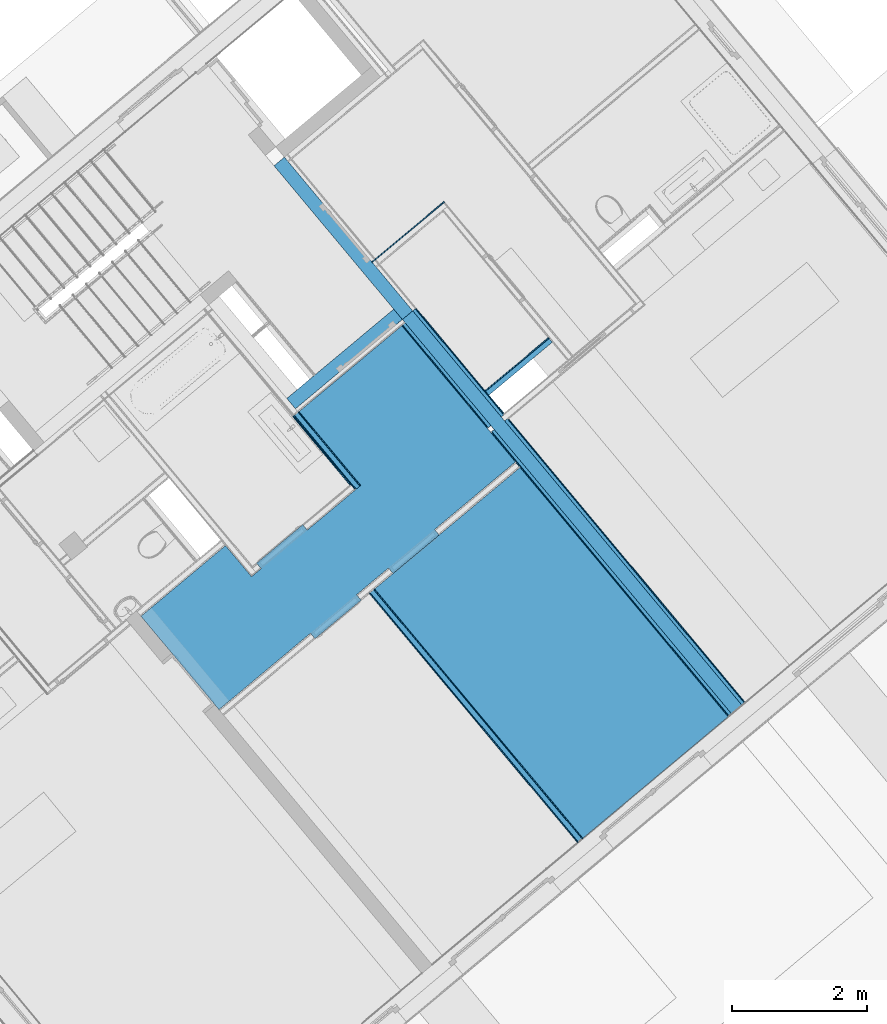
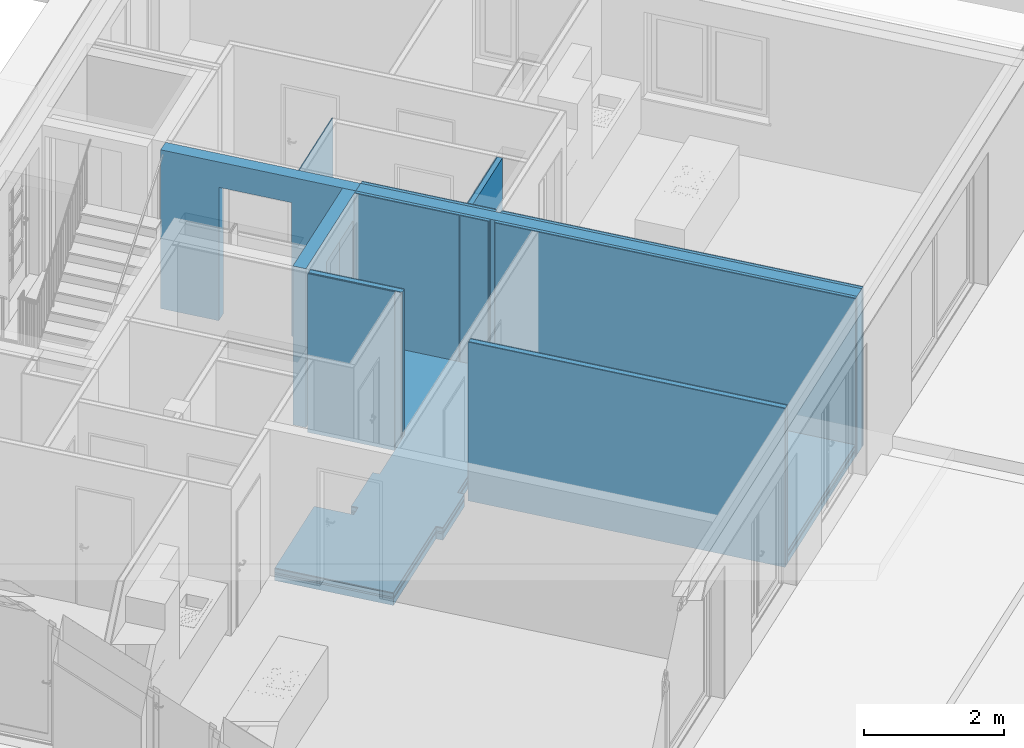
# One storey, part 40 of 67: 25 building element parts, 2 openings, 9 elements without a shape of their own.
"""IFC4 building model written with IfcOpenShell, lengths in metres."""

from ifc_helpers import new_model, entity, si_unit, converted_unit, derived_unit, direction, frame, origin_with_axes, place, context, subcontext, project, spatial, polygons, material, type_object, element, aggregate, save


model = new_model("IFC4")

# Units and contexts
model_context = context("Model", 3, precision=1e-05, world=origin_with_axes(), true_north=direction((0.0, 1.0)))
body_context = subcontext(model_context, "Body", "Model", "MODEL_VIEW")
ifc_project = project(units=[si_unit("LENGTHUNIT", "METRE"), si_unit("AREAUNIT", "SQUARE_METRE"), si_unit("VOLUMEUNIT", "CUBIC_METRE"), converted_unit("PLANEANGLEUNIT", "DEGREE", entity("IfcPlaneAngleMeasure", 0.0174532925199), si_unit("PLANEANGLEUNIT", "RADIAN"), dimensions=[0, 0, 0, 0, 0, 0, 0]), converted_unit("TIMEUNIT", "Year", entity("IfcTimeMeasure", 31556926.0), si_unit("TIMEUNIT", "SECOND"), dimensions=[0, 0, 1, 0, 0, 0, 0]), si_unit("MASSUNIT", "GRAM", prefix="KILO"), si_unit("THERMODYNAMICTEMPERATUREUNIT", "DEGREE_CELSIUS"), si_unit("LUMINOUSINTENSITYUNIT", "LUMEN"), si_unit("ENERGYUNIT", "JOULE", prefix="MEGA"), derived_unit("THERMALCONDUCTANCEUNIT", [(si_unit("POWERUNIT", "WATT"), 1), (si_unit("LENGTHUNIT", "METRE"), -1), (si_unit("THERMODYNAMICTEMPERATUREUNIT", "KELVIN"), -1)]), derived_unit("SPECIFICHEATCAPACITYUNIT", [(si_unit("ENERGYUNIT", "JOULE"), 1), (si_unit("MASSUNIT", "GRAM", prefix="KILO"), -1), (si_unit("THERMODYNAMICTEMPERATUREUNIT", "KELVIN"), -1)]), derived_unit("MASSDENSITYUNIT", [(si_unit("MASSUNIT", "GRAM", prefix="KILO"), 1), (si_unit("VOLUMEUNIT", "CUBIC_METRE"), -1)])], contexts=[model_context])

# Site, building, storey
site_placement = place(None, frame((-0.00153261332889, -0.00661245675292, 0.0), z_axis=(0.0, 0.0, 1.0), x_axis=(1.0, 0.0, 0.0)))
site = spatial("IfcSite", under=ifc_project, at=site_placement, Name="Site", CompositionType="ELEMENT")
building_placement = place(site_placement, origin_with_axes())
building = spatial("IfcBuilding", under=site, at=building_placement, Name="Building", CompositionType="ELEMENT")
storey_placement = place(building_placement, frame((0.0, 0.0, -0.22), z_axis=(0.0, 0.0, 1.0), x_axis=(1.0, 0.0, 0.0)))
storey = spatial("IfcBuildingStorey", under=building, at=storey_placement, Name="EG", CompositionType="ELEMENT", Elevation=-0.22)

# Wall, building element parts
wall_type_1 = type_object("IfcWallType", Name="IW LB 01 Leichtbautrennwand einfach 10,5 cm 105", PredefinedType="NOTDEFINED")
wall_1_placement = place(storey_placement, frame((2.82455205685, 18.2460213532, 0.0), z_axis=(0.0, 0.0, 1.0), x_axis=(0.641209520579, -0.767365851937, 0.0)))
wall_1 = element("IfcWall", 1, at=wall_1_placement, inside=storey, type_object=wall_type_1, Name="Wand-012", PredefinedType="NOTDEFINED")
ifc_material_1 = material(Name="Gipskarton")
building_element_part_1_placement = place(wall_1_placement, origin_with_axes())
building_element_part_1 = element("IfcBuildingElementPart", 2, at=building_element_part_1_placement, material=ifc_material_1, Name="Gipskarton", PredefinedType="NOTDEFINED", context=body_context, shape_type="Tessellation", body=[
    polygons([(0.0, 0.0, 2.76), (4.80588291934, 0.0, 2.76), (4.80588291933, 0.0, 0.0), (0.0, 0.0, 0.0), (4.80589268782, -0.015, 2.76), (0.0, -0.015, 2.76), (4.8058926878, -0.015, 0.0), (0.0, -0.015, 0.0)], [[[1, 2, 3, 4]], [[5, 2, 1, 6]], [[2, 5, 7, 3]], [[4, 3, 7, 8]], [[6, 1, 4, 8]], [[5, 6, 8, 7]]], closed=True),
])
ifc_material_2 = material(Name="Mineralwolle weich")
building_element_part_2_placement = place(wall_1_placement, origin_with_axes())
building_element_part_2 = element("IfcBuildingElementPart", 3, at=building_element_part_2_placement, material=ifc_material_2, Name="Mineralwolle weich", PredefinedType="NOTDEFINED", context=body_context, shape_type="Tessellation", body=[
    polygons([(0.0, -0.015, 2.76), (4.80589268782, -0.015, 2.76), (4.8058926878, -0.015, 0.0), (0.0, -0.015, 0.0), (4.80594153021, -0.09, 2.76), (0.0, -0.09, 2.76), (4.80594153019, -0.09, 0.0), (0.0, -0.09, 0.0)], [[[1, 2, 3, 4]], [[5, 2, 1, 6]], [[2, 5, 7, 3]], [[4, 3, 7, 8]], [[6, 1, 4, 8]], [[5, 6, 8, 7]]], closed=True),
])
building_element_part_3_placement = place(wall_1_placement, origin_with_axes())
building_element_part_3 = element("IfcBuildingElementPart", 4, at=building_element_part_3_placement, material=ifc_material_1, Name="Gipskarton", PredefinedType="NOTDEFINED", context=body_context, shape_type="Tessellation", body=[
    polygons([(0.0, -0.09, 2.76), (4.80594153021, -0.09, 2.76), (4.80594153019, -0.09, 0.0), (0.0, -0.09, 0.0), (4.80595129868, -0.105, 2.76), (0.0, -0.105, 2.76), (4.80595129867, -0.105, 0.0), (0.0, -0.105, 0.0)], [[[1, 2, 3, 4]], [[5, 2, 1, 6]], [[2, 5, 7, 3]], [[4, 3, 7, 8]], [[6, 1, 4, 8]], [[5, 6, 8, 7]]], closed=True),
])
aggregate(wall_1, [building_element_part_1, building_element_part_2, building_element_part_3])

# Wall, opening, building element part
wall_type_2 = type_object("IfcWallType", Name="LB 6,5 cm einfach Vorsatzschale + STB 265", PredefinedType="NOTDEFINED")
wall_2_placement = place(storey_placement, frame((3.10708203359, 22.3836955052, 0.0), z_axis=(0.0, 0.0, 1.0), x_axis=(-0.767670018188, -0.640845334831, 0.0)))
wall_2 = element("IfcWall", 5, at=wall_2_placement, inside=storey, type_object=wall_type_2, Name="Wand-003", PredefinedType="NOTDEFINED")
opening_1_placement = place(wall_2_placement, frame((0.668737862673, 0.0, 0.22), z_axis=(0.0, 0.0, 1.0), x_axis=(1.0, 0.0, 0.0)))
element("IfcOpeningElement", 6, at=opening_1_placement, cuts=wall_2, Name="Tür-001", context=body_context, identifier="Reference", shape_type="Tessellation", body=[
    polygons([(0.55, 0.125, 2.1), (-0.55, 0.125, 2.1), (-0.55, -0.91628178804, 2.1), (0.55, -0.91628178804, 2.1), (0.55, 1.18128178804, 2.1), (-0.55, 1.18128178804, 2.1), (-0.55, 0.125, -0.22), (-0.55, -0.91628178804, -0.22), (0.55, -0.91628178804, -0.22), (0.55, 0.125, -0.22), (0.55, 1.18128178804, -0.22), (-0.55, 1.18128178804, -0.22)], [[[1, 2, 3, 4]], [[2, 1, 5, 6]], [[2, 7, 8, 3]], [[3, 8, 9, 4]], [[10, 1, 4, 9]], [[1, 10, 11, 5]], [[5, 11, 12, 6]], [[7, 2, 6, 12]], [[7, 10, 9, 8]], [[10, 7, 12, 11]]], closed=True),
])
ifc_material_3 = material(Name="Stahlbeton Wand")
building_element_part_4_placement = place(wall_2_placement, origin_with_axes())
building_element_part_4 = element("IfcBuildingElementPart", 7, at=building_element_part_4_placement, material=ifc_material_3, Name="Stahlbeton Wand", PredefinedType="NOTDEFINED", context=body_context, shape_type="Tessellation", body=[
    polygons([(1.21873786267, 0.199999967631, 0.22), (1.21873786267, 0.199999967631, 2.32), (0.118737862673, 0.199999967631, 2.32), (0.118737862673, 0.199999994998, 0.22), (0.118737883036, 0.199999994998, 0.0), (2.57769698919e-08, 0.2, 0.0), (2.57769663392e-08, 0.2, 2.76), (2.06048860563, 0.2, 2.76), (2.06048860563, 0.2, 0.0), (1.21873786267, 0.199999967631, 0.0), (1.21873786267, 0.125, 0.22), (1.21873786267, 0.125, 2.32), (0.118737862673, 0.125, 2.32), (0.118737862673, 0.125, 0.22), (0.118737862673, 0.0, 0.22), (0.11873788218, 0.0, 0.0), (2.57744581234e-08, 0.0, 0.0), (2.57744581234e-08, 0.0, 2.76), (2.06048860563, 0.0, 2.76), (2.06048860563, 0.0, 0.0), (1.21873786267, 0.0, 0.0), (1.21873786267, 0.0, 0.22), (1.21873786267, 0.0, 2.32), (0.118737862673, 0.0, 2.32)], [[[1, 2, 3, 4, 5, 6, 7, 8, 9, 10]], [[2, 1, 11, 12]], [[3, 2, 12, 13]], [[4, 3, 13, 14]], [[4, 14, 15, 16, 5]], [[17, 6, 5, 16]], [[17, 18, 7, 6]], [[7, 18, 19, 8]], [[8, 19, 20, 9]], [[9, 20, 21, 10]], [[11, 1, 10, 21, 22]], [[12, 11, 22, 23]], [[13, 12, 23, 24]], [[14, 13, 24, 15]], [[16, 15, 24, 23, 22, 21, 20, 19, 18, 17]]], closed=True),
])
aggregate(wall_2, [building_element_part_4])

wall_3_placement = place(storey_placement, frame((3.23525108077, 22.230161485, 0.0), z_axis=(0.0, 0.0, 1.0), x_axis=(-0.640845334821, 0.767670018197, 0.0)))
wall_3 = element("IfcWall", 8, at=wall_3_placement, inside=storey, type_object=wall_type_2, Name="Wand-003", PredefinedType="NOTDEFINED")
opening_2_placement = place(wall_3_placement, frame((1.52746867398, 0.0, 0.22), z_axis=(0.0, 0.0, 1.0), x_axis=(1.0, 0.0, 0.0)))
element("IfcOpeningElement", 9, at=opening_2_placement, cuts=wall_3, Name="Tür-001", context=body_context, identifier="Reference", shape_type="Tessellation", body=[
    polygons([(-0.55, -0.125, -0.22), (-0.55, -0.125, 2.1), (-0.55, 1.55629700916, 2.1), (-0.55, 1.55629700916, -0.22), (-0.55, -1.82129700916, -0.22), (-0.55, -1.82129700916, 2.1), (0.55, -0.125, 2.1), (0.55, 1.55629700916, 2.1), (0.55, 1.55629700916, -0.22), (0.55, -0.125, -0.22), (0.55, -1.82129700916, -0.22), (0.55, -1.82129700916, 2.1)], [[[1, 2, 3, 4]], [[2, 1, 5, 6]], [[2, 7, 8, 3]], [[8, 9, 4, 3]], [[10, 1, 4, 9]], [[1, 10, 11, 5]], [[6, 5, 11, 12]], [[7, 2, 6, 12]], [[7, 10, 9, 8]], [[10, 7, 12, 11]]], closed=True),
])
building_element_part_5_placement = place(wall_3_placement, origin_with_axes())
building_element_part_5 = element("IfcBuildingElementPart", 10, at=building_element_part_5_placement, material=ifc_material_3, Name="Stahlbeton Wand", PredefinedType="NOTDEFINED", context=body_context, shape_type="Tessellation", body=[
    polygons([(2.07746867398, -0.2, 2.32), (2.07746867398, -0.199999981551, 0.22), (2.07746867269, -0.199999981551, 0.0), (2.96152889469, -0.2, 0.0), (2.96152889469, -0.2, 2.76), (0.0, -0.2, 2.76), (0.0, -0.2, 0.0), (0.977468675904, -0.19999995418, 0.0), (0.977468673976, -0.19999995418, 0.22), (0.977468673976, -0.2, 2.32), (2.07746867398, -0.125, 2.32), (2.07746867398, -0.125, 0.22), (2.07746867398, 0.0, 0.22), (2.07746867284, 0.0, 0.0), (2.96144425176, 0.0, 0.0), (2.96144425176, 0.0, 2.76), (0.0, 0.0, 2.76), (0.0, 0.0, 0.0), (0.977468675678, 0.0, 0.0), (0.977468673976, -0.125, 0.22), (0.977468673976, 0.0, 0.22), (0.977468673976, -0.125, 2.32), (2.07746867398, 0.0, 2.32), (0.977468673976, 0.0, 2.32)], [[[1, 2, 3, 4, 5, 6, 7, 8, 9, 10]], [[2, 1, 11, 12]], [[2, 12, 13, 14, 3]], [[15, 4, 3, 14]], [[4, 15, 16, 5]], [[17, 6, 5, 16]], [[17, 18, 7, 6]], [[7, 18, 19, 8]], [[20, 9, 8, 19, 21]], [[10, 9, 20, 22]], [[1, 10, 22, 11]], [[12, 11, 23, 13]], [[14, 13, 23, 24, 21, 19, 18, 17, 16, 15]], [[22, 20, 21, 24]], [[11, 22, 24, 23]]], closed=True),
])
aggregate(wall_3, [building_element_part_5])

# Wall, building element parts
wall_type_3 = type_object("IfcWallType", Name="LB 6,5 cm einfach Vorsatzschale + STB + Schale 330", PredefinedType="NOTDEFINED")
wall_4_placement = place(storey_placement, frame((8.31086475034, 16.5635891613, 0.0), z_axis=(0.0, 0.0, 1.0), x_axis=(-0.640845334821, 0.767670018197, 0.0)))
wall_4 = element("IfcWall", 11, at=wall_4_placement, inside=storey, type_object=wall_type_3, Name="Wand-003", PredefinedType="NOTDEFINED")
building_element_part_6_placement = place(wall_4_placement, origin_with_axes())
building_element_part_6 = element("IfcBuildingElementPart", 12, at=building_element_part_6_placement, material=ifc_material_1, Name="Gipskarton", PredefinedType="NOTDEFINED", context=body_context, shape_type="Tessellation", body=[
    polygons([(7.60274102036, 0.33, 0.0), (7.60274102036, 0.315, 0.0), (6.01339393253, 0.315, 0.0), (6.01338681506, 0.33, 0.0), (7.60274102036, 0.33, 2.76), (7.60274102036, 0.315, 2.76), (6.01339393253, 0.315, 2.76), (6.01338681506, 0.33, 2.76)], [[[1, 2, 3, 4]], [[1, 5, 6, 2]], [[2, 6, 7, 3]], [[4, 3, 7, 8]], [[5, 1, 4, 8]], [[6, 5, 8, 7]]], closed=True),
    polygons([(5.99839393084, 0.315, 0.0), (5.5737861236, 0.315, 0.0), (5.5737884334, 0.33, 0.0), (5.99838681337, 0.33, 0.0), (5.99839393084, 0.315, 2.76), (5.5737861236, 0.315, 2.76), (5.5737884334, 0.33, 2.76), (5.99838681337, 0.33, 2.76)], [[[1, 2, 3, 4]], [[5, 6, 2, 1]], [[3, 2, 6, 7]], [[4, 3, 7, 8]], [[4, 8, 5, 1]], [[8, 7, 6, 5]]], closed=True),
    polygons([(5.46878612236, 0.315, 0.0), (0.0, 0.315, 0.0), (0.0, 0.33, 0.0), (5.46878843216, 0.33, 0.0), (5.46878612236, 0.315, 2.76), (0.0, 0.315, 2.76), (0.0, 0.33, 2.76), (5.46878843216, 0.33, 2.76)], [[[1, 2, 3, 4]], [[5, 6, 2, 1]], [[3, 2, 6, 7]], [[4, 3, 7, 8]], [[4, 8, 5, 1]], [[8, 7, 6, 5]]], closed=True),
])
building_element_part_7_placement = place(wall_4_placement, origin_with_axes())
building_element_part_7 = element("IfcBuildingElementPart", 13, at=building_element_part_7_placement, material=ifc_material_2, Name="Mineralwolle weich", PredefinedType="NOTDEFINED", context=body_context, shape_type="Tessellation", body=[
    polygons([(7.60274102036, 0.315, 0.0), (7.60274102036, 0.265, 0.0), (5.55877842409, 0.265, 0.0), (5.55878612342, 0.315, 0.0), (7.60274102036, 0.315, 2.76), (7.60274102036, 0.265, 2.76), (5.55877842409, 0.265, 2.76), (5.55878612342, 0.315, 2.76)], [[[1, 2, 3, 4]], [[1, 5, 6, 2]], [[2, 6, 7, 3]], [[4, 3, 7, 8]], [[5, 1, 4, 8]], [[6, 5, 8, 7]]], closed=True),
    polygons([(5.4837784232, 0.265, 0.0), (0.0, 0.265, 0.0), (0.0, 0.315, 0.0), (5.48378612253, 0.315, 0.0), (5.4837784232, 0.265, 2.76), (0.0, 0.265, 2.76), (0.0, 0.315, 2.76), (5.48378612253, 0.315, 2.76)], [[[1, 2, 3, 4]], [[5, 6, 2, 1]], [[3, 2, 6, 7]], [[4, 3, 7, 8]], [[4, 8, 5, 1]], [[8, 7, 6, 5]]], closed=True),
])
building_element_part_8_placement = place(wall_4_placement, origin_with_axes())
building_element_part_8 = element("IfcBuildingElementPart", 14, at=building_element_part_8_placement, material=ifc_material_3, Name="Stahlbeton Wand", PredefinedType="NOTDEFINED", context=body_context, shape_type="Tessellation", body=[
    polygons([(7.60274102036, 0.265, 0.0), (7.60274102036, 0.065, 0.0), (0.0, 0.065, 0.0), (0.0, 0.265, 0.0), (7.60274102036, 0.265, 2.76), (7.60274102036, 0.065, 2.76), (0.0, 0.065, 2.76), (0.0, 0.265, 2.76)], [[[1, 2, 3, 4]], [[1, 5, 6, 2]], [[2, 6, 7, 3]], [[4, 3, 7, 8]], [[5, 1, 4, 8]], [[6, 5, 8, 7]]], closed=True),
])
building_element_part_9_placement = place(wall_4_placement, origin_with_axes())
building_element_part_9 = element("IfcBuildingElementPart", 15, at=building_element_part_9_placement, material=ifc_material_2, Name="Mineralwolle weich", PredefinedType="NOTDEFINED", context=body_context, shape_type="Tessellation", body=[
    polygons([(7.60274102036, 0.065, 0.0), (7.60274102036, 0.015, 0.0), (5.55873992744, 0.015, 0.0), (5.55874762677, 0.065, 0.0), (7.60274102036, 0.065, 2.76), (7.60274102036, 0.015, 2.76), (5.55873992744, 0.015, 2.76), (5.55874762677, 0.065, 2.76)], [[[1, 2, 3, 4]], [[1, 5, 6, 2]], [[2, 6, 7, 3]], [[4, 3, 7, 8]], [[5, 1, 4, 8]], [[6, 5, 8, 7]]], closed=True),
    polygons([(5.48373992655, 0.015, 0.0), (0.0, 0.015, 0.0), (0.0, 0.065, 0.0), (5.48374762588, 0.065, 0.0), (5.48373992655, 0.015, 2.76), (0.0, 0.015, 2.76), (0.0, 0.065, 2.76), (5.48374762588, 0.065, 2.76)], [[[1, 2, 3, 4]], [[5, 6, 2, 1]], [[3, 2, 6, 7]], [[4, 3, 7, 8]], [[4, 8, 5, 1]], [[8, 7, 6, 5]]], closed=True),
])
building_element_part_10_placement = place(wall_4_placement, origin_with_axes())
building_element_part_10 = element("IfcBuildingElementPart", 16, at=building_element_part_10_placement, material=ifc_material_1, Name="Gipskarton", PredefinedType="NOTDEFINED", context=body_context, shape_type="Tessellation", body=[
    polygons([(7.60274102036, 0.015, 0.0), (7.60274102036, 0.0, 0.0), (6.01354339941, 0.0, 0.0), (6.01353628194, 0.015, 0.0), (7.60274102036, 0.015, 2.76), (7.60274102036, 0.0, 2.76), (6.01354339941, 0.0, 2.76), (6.01353628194, 0.015, 2.76)], [[[1, 2, 3, 4]], [[1, 5, 6, 2]], [[2, 6, 7, 3]], [[4, 3, 7, 8]], [[5, 1, 4, 8]], [[6, 5, 8, 7]]], closed=True),
    polygons([(5.99854339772, 0.0, 0.0), (5.57373761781, 0.0, 0.0), (5.57373992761, 0.015, 0.0), (5.99853628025, 0.015, 0.0), (5.99854339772, 0.0, 2.76), (5.57373761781, 0.0, 2.76), (5.57373992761, 0.015, 2.76), (5.99853628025, 0.015, 2.76)], [[[1, 2, 3, 4]], [[5, 6, 2, 1]], [[3, 2, 6, 7]], [[4, 3, 7, 8]], [[4, 8, 5, 1]], [[8, 7, 6, 5]]], closed=True),
    polygons([(5.46873761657, 0.0, 0.0), (0.0, 0.0, 0.0), (0.0, 0.015, 0.0), (5.46873992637, 0.015, 0.0), (5.46873761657, 0.0, 2.76), (0.0, 0.0, 2.76), (0.0, 0.015, 2.76), (5.46873992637, 0.015, 2.76)], [[[1, 2, 3, 4]], [[5, 6, 2, 1]], [[3, 2, 6, 7]], [[4, 3, 7, 8]], [[4, 8, 5, 1]], [[8, 7, 6, 5]]], closed=True),
])
aggregate(wall_4, [building_element_part_6, building_element_part_7, building_element_part_8, building_element_part_9, building_element_part_10])

wall_type_4 = type_object("IfcWallType", Name="LB 13 cm doppelte Vorsatzschale Bad  120", PredefinedType="NOTDEFINED")
wall_5_placement = place(storey_placement, frame((1.61452537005, 20.7925196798, 0.0), z_axis=(0.0, 0.0, 1.0), x_axis=(0.641726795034, -0.766933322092, 0.0)))
wall_5 = element("IfcWall", 17, at=wall_5_placement, inside=storey, type_object=wall_type_4, Name="Wand-013", PredefinedType="NOTDEFINED")
ifc_material_4 = material(Name="Gipsputz")
building_element_part_11_placement = place(wall_5_placement, origin_with_axes())
building_element_part_11 = element("IfcBuildingElementPart", 18, at=building_element_part_11_placement, material=ifc_material_4, Name="Gipsputz", PredefinedType="NOTDEFINED", context=body_context, shape_type="Tessellation", body=[
    polygons([(0.0, 0.12, 2.76), (1.42358662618, 0.12, 2.76), (1.42358662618, 0.12, 0.0), (0.0, 0.12, 0.0), (1.42357651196, 0.105, 2.76), (0.0, 0.105, 2.76), (1.42357651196, 0.105, 0.0), (0.0, 0.105, 0.0)], [[[1, 2, 3, 4]], [[5, 2, 1, 6]], [[2, 5, 7, 3]], [[3, 7, 8, 4]], [[6, 1, 4, 8]], [[5, 6, 8, 7]]], closed=True),
])
building_element_part_12_placement = place(wall_5_placement, origin_with_axes())
building_element_part_12 = element("IfcBuildingElementPart", 19, at=building_element_part_12_placement, material=ifc_material_2, Name="Mineralwolle weich", PredefinedType="NOTDEFINED", context=body_context, shape_type="Tessellation", body=[
    polygons([(0.0, 0.105, 2.76), (1.42357651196, 0.105, 2.76), (1.42357651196, 0.105, 0.0), (0.0, 0.105, 0.0), (1.42352594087, 0.03, 2.76), (0.0, 0.03, 2.76), (1.42352594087, 0.03, 0.0), (0.0, 0.03, 0.0)], [[[1, 2, 3, 4]], [[5, 2, 1, 6]], [[2, 5, 7, 3]], [[3, 7, 8, 4]], [[6, 1, 4, 8]], [[5, 6, 8, 7]]], closed=True),
])
building_element_part_13_placement = place(wall_5_placement, origin_with_axes())
building_element_part_13 = element("IfcBuildingElementPart", 20, at=building_element_part_13_placement, material=ifc_material_1, Name="Gipskarton", PredefinedType="NOTDEFINED", context=body_context, shape_type="Tessellation", body=[
    polygons([(0.0, 0.03, 2.76), (1.40852593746, 0.03, 2.76), (1.40852593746, 0.03, 0.0), (0.0, 0.03, 0.0), (1.40851582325, 0.015, 2.76), (0.0, 0.015, 2.76), (1.40851582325, 0.015, 0.0), (0.0, 0.015, 0.0)], [[[1, 2, 3, 4]], [[5, 2, 1, 6]], [[2, 5, 7, 3]], [[3, 7, 8, 4]], [[6, 1, 4, 8]], [[5, 6, 8, 7]]], closed=True),
])
building_element_part_14_placement = place(wall_5_placement, origin_with_axes())
building_element_part_14 = element("IfcBuildingElementPart", 21, at=building_element_part_14_placement, material=ifc_material_1, Name="Gipskarton", PredefinedType="NOTDEFINED", context=body_context, shape_type="Tessellation", body=[
    polygons([(0.0, 0.015, 2.76), (1.31851580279, 0.015, 2.76), (1.31851580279, 0.015, 0.0), (0.0, 0.015, 0.0), (1.31850568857, 0.0, 2.76), (0.0, 0.0, 2.76), (1.31850568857, 0.0, 0.0), (0.0, 0.0, 0.0)], [[[1, 2, 3, 4]], [[5, 2, 1, 6]], [[2, 5, 7, 3]], [[3, 7, 8, 4]], [[6, 1, 4, 8]], [[5, 6, 8, 7]]], closed=True),
])
aggregate(wall_5, [building_element_part_11, building_element_part_12, building_element_part_13, building_element_part_14])

# Wall, building element part
wall_6_placement = place(storey_placement, frame((2.84969161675, 23.0041117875, 0.0), z_axis=(0.0, 0.0, 1.0), x_axis=(0.767365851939, 0.641209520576, 0.0)))
wall_6 = element("IfcWall", 22, at=wall_6_placement, inside=storey, type_object=wall_type_1, Name="Wand-012", PredefinedType="NOTDEFINED")
building_element_part_15_placement = place(wall_6_placement, origin_with_axes())
building_element_part_15 = element("IfcBuildingElementPart", 23, at=building_element_part_15_placement, material=ifc_material_1, Name="Gipskarton", PredefinedType="NOTDEFINED", context=body_context, shape_type="Tessellation", body=[
    polygons([(1.3909877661, 0.105, 2.76), (1.3909877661, 0.09, 2.76), (1.3909877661, 0.09, 0.0), (1.3909877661, 0.105, 0.0), (0.0, 0.09, 2.76), (0.0, 0.105, 2.76), (0.0, 0.09, 0.0), (0.0, 0.105, 0.0)], [[[1, 2, 3, 4]], [[5, 2, 1, 6]], [[2, 5, 7, 3]], [[4, 3, 7, 8]], [[6, 1, 4, 8]], [[5, 6, 8, 7]]], closed=True),
])
aggregate(wall_6, [building_element_part_15])

# Wall, building element parts
wall_type_5 = type_object("IfcWallType", Name="LB 9,0 cm einfache Vorsatzschale  90", PredefinedType="NOTDEFINED")
wall_7_placement = place(storey_placement, frame((4.46491081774, 21.0692371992, 0.0), z_axis=(0.0, 0.0, 1.0), x_axis=(0.767365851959, 0.641209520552, 0.0)))
wall_7 = element("IfcWall", 24, at=wall_7_placement, inside=storey, type_object=wall_type_5, Name="Wand-006", PredefinedType="NOTDEFINED")
building_element_part_16_placement = place(wall_7_placement, origin_with_axes())
building_element_part_16 = element("IfcBuildingElementPart", 25, at=building_element_part_16_placement, material=ifc_material_1, Name="Gipskarton", PredefinedType="NOTDEFINED", context=body_context, shape_type="Tessellation", body=[
    polygons([(1.28718371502, 0.09, 2.76), (1.28718371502, 0.075, 2.76), (1.28718371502, 0.075, 0.0), (1.28718371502, 0.09, 0.0), (0.0500427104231, 0.09, 2.76), (0.0500355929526, 0.075, 2.76), (0.0500355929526, 0.075, 0.0), (0.0500427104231, 0.09, 0.0)], [[[1, 2, 3, 4]], [[2, 1, 5, 6]], [[2, 6, 7, 3]], [[3, 7, 8, 4]], [[1, 4, 8, 5]], [[6, 5, 8, 7]]], closed=True),
])
building_element_part_17_placement = place(wall_7_placement, origin_with_axes())
building_element_part_17 = element("IfcBuildingElementPart", 26, at=building_element_part_17_placement, material=ifc_material_2, Name="Mineralwolle weich", PredefinedType="NOTDEFINED", context=body_context, shape_type="Tessellation", body=[
    polygons([(1.28718371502, 0.075, 2.76), (1.28718371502, 0.0, 2.76), (1.28718371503, 0.0, 0.0), (1.28718371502, 0.075, 0.0), (0.0650000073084, 0.0, 2.76), (0.065035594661, 0.075, 2.76), (0.0650000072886, 0.0, 0.0), (0.0650355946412, 0.075, 0.0)], [[[1, 2, 3, 4]], [[5, 2, 1, 6]], [[2, 5, 7, 3]], [[3, 7, 8, 4]], [[6, 1, 4, 8]], [[5, 6, 8, 7]]], closed=True),
])
aggregate(wall_7, [building_element_part_16, building_element_part_17])

# Covering, building element parts
covering_type_1 = type_object("IfcCoveringType", Name="DE 01 Decke Wohnung/Wohnung Parkett 220", PredefinedType="NOTDEFINED")
covering_1_placement = place(storey_placement, frame((2.82455205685, 18.2460213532, 0.22), z_axis=(0.0, 0.0, 1.0), x_axis=(1.0, 0.0, 0.0)))
covering_1 = element("IfcCovering", 27, at=covering_1_placement, inside=storey, type_object=covering_type_1, Name="Decke-006", PredefinedType="NOTDEFINED")
ifc_material_5 = material(Name="Parkett")
building_element_part_18_placement = place(covering_1_placement, origin_with_axes())
building_element_part_18 = element("IfcBuildingElementPart", 28, at=building_element_part_18_placement, material=ifc_material_5, Name="Parkett", PredefinedType="NOTDEFINED", context=body_context, shape_type="Tessellation", body=[
    polygons([(3.08157788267, -3.68787044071, -0.015), (3.08157788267, -3.68787044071, 0.0), (0.0, 0.0, 0.0), (0.0, 0.0, -0.015), (5.22996853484, -1.89030181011, -0.015), (5.22996853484, -1.89030181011, 0.0), (2.15130959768, 1.79763041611, 0.0), (2.15130959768, 1.79763041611, -0.015)], [[[1, 2, 3, 4]], [[5, 6, 2, 1]], [[3, 2, 6, 7]], [[4, 3, 7, 8]], [[4, 8, 5, 1]], [[8, 7, 6, 5]]], closed=True),
])
ifc_material_6 = material(Name="Estrich")
building_element_part_19_placement = place(covering_1_placement, origin_with_axes())
building_element_part_19 = element("IfcBuildingElementPart", 29, at=building_element_part_19_placement, material=ifc_material_6, Name="Estrich", PredefinedType="NOTDEFINED", context=body_context, shape_type="Tessellation", body=[
    polygons([(3.08157788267, -3.68787044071, -0.08), (3.08157788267, -3.68787044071, -0.015), (0.0, 0.0, -0.015), (0.0, 0.0, -0.08), (5.22996853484, -1.89030181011, -0.08), (5.22996853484, -1.89030181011, -0.015), (2.15130959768, 1.79763041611, -0.015), (2.15130959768, 1.79763041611, -0.08)], [[[1, 2, 3, 4]], [[5, 6, 2, 1]], [[3, 2, 6, 7]], [[4, 3, 7, 8]], [[4, 8, 5, 1]], [[8, 7, 6, 5]]], closed=True),
])
ifc_material_7 = material(Name="Trittschalldämmung")
building_element_part_20_placement = place(covering_1_placement, origin_with_axes())
building_element_part_20 = element("IfcBuildingElementPart", 30, at=building_element_part_20_placement, material=ifc_material_7, Name="Trittschalldämmung", PredefinedType="NOTDEFINED", context=body_context, shape_type="Tessellation", body=[
    polygons([(3.08157788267, -3.68787044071, -0.11), (3.08157788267, -3.68787044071, -0.08), (0.0, 0.0, -0.08), (0.0, 0.0, -0.11), (5.22996853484, -1.89030181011, -0.11), (5.22996853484, -1.89030181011, -0.08), (2.15130959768, 1.79763041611, -0.08), (2.15130959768, 1.79763041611, -0.11)], [[[1, 2, 3, 4]], [[5, 6, 2, 1]], [[3, 2, 6, 7]], [[4, 3, 7, 8]], [[4, 8, 5, 1]], [[8, 7, 6, 5]]], closed=True),
])
ifc_material_8 = material(Name="Schüttung")
building_element_part_21_placement = place(covering_1_placement, origin_with_axes())
building_element_part_21 = element("IfcBuildingElementPart", 31, at=building_element_part_21_placement, material=ifc_material_8, Name="Schüttung", PredefinedType="NOTDEFINED", context=body_context, shape_type="Tessellation", body=[
    polygons([(0.0, 0.0, -0.22), (3.08157788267, -3.68787044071, -0.22), (3.08157788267, -3.68787044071, -0.11), (0.0, 0.0, -0.11), (2.15130959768, 1.79763041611, -0.22), (5.22996853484, -1.89030181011, -0.22), (5.22996853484, -1.89030181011, -0.11), (2.15130959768, 1.79763041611, -0.11)], [[[1, 2, 3, 4]], [[1, 5, 6, 2]], [[2, 6, 7, 3]], [[4, 3, 7, 8]], [[5, 1, 4, 8]], [[6, 5, 8, 7]]], closed=True),
])
aggregate(covering_1, [building_element_part_18, building_element_part_19, building_element_part_20, building_element_part_21])

covering_type_2 = type_object("IfcCoveringType", Name="DE 01 Decke Wohnung/Wohnung Fließen 220", PredefinedType="NOTDEFINED")
covering_2_placement = place(storey_placement, frame((0.620119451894, 18.8878317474, 0.22), z_axis=(0.0, 0.0, 1.0), x_axis=(1.0, 0.0, 0.0)))
covering_2 = element("IfcCovering", 32, at=covering_2_placement, inside=storey, type_object=covering_type_2, Name="Decke-002", PredefinedType="NOTDEFINED")
ifc_material_9 = material(Name="Fliesen")
building_element_part_22_placement = place(covering_2_placement, origin_with_axes())
building_element_part_22 = element("IfcBuildingElementPart", 33, at=building_element_part_22_placement, material=ifc_material_9, Name="Fliesen", PredefinedType="NOTDEFINED", context=body_context, shape_type="Tessellation", body=[
    polygons([(0.0, 0.0, -0.015), (-1.25133214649, -1.04561091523, -0.015), (-1.25133214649, -1.04561091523, 0.0), (0.0, 0.0, 0.0), (0.384427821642, -0.460063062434, -0.015), (0.526476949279, -0.341367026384, -0.015), (0.459149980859, -0.260793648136, -0.015), (1.14210555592, 0.309882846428, -0.015), (1.20943260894, 0.229309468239, -0.015), (1.99999160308, 0.889899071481, -0.015), (1.08732954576, 1.98225712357, -0.015), (2.6068880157, 3.25077620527, -0.015), (4.28845343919, 1.23642541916, -0.015), (3.09282756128, 0.237362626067, -0.015), (3.16015461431, 0.156789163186, -0.015), (2.47719895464, -0.413887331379, -0.015), (2.40987198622, -0.333313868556, -0.015), (1.93794698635, -0.727653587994, -0.015), (2.00527395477, -0.808226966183, -0.015), (1.32231837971, -1.37890346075, -0.015), (1.25499141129, -1.29832999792, -0.015), (-0.0965096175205, -2.42764183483, -0.015), (-0.0965096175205, -2.42764183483, 0.0), (0.384427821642, -0.460063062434, 0.0), (1.25499141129, -1.29832999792, 0.0), (1.32231837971, -1.37890346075, 0.0), (2.00527395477, -0.808226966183, 0.0), (1.93794698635, -0.727653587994, 0.0), (2.40987198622, -0.333313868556, 0.0), (2.47719895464, -0.413887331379, 0.0), (3.16015461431, 0.156789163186, 0.0), (3.09282756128, 0.237362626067, 0.0), (4.28845343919, 1.23642541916, 0.0), (2.6068880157, 3.25077620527, 0.0), (1.08732954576, 1.98225712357, 0.0), (1.99999160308, 0.889899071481, 0.0), (1.20943260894, 0.229309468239, 0.0), (1.14210555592, 0.309882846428, 0.0), (0.459149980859, -0.260793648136, 0.0), (0.526476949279, -0.341367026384, 0.0)], [[[1, 2, 3, 4]], [[2, 1, 5, 6, 7, 8, 9, 10, 11, 12, 13, 14, 15, 16, 17, 18, 19, 20, 21, 22]], [[2, 22, 23, 3]], [[24, 4, 3, 23, 25, 26, 27, 28, 29, 30, 31, 32, 33, 34, 35, 36, 37, 38, 39, 40]], [[5, 1, 4, 24]], [[6, 5, 24, 40]], [[7, 6, 40, 39]], [[8, 7, 39, 38]], [[9, 8, 38, 37]], [[10, 9, 37, 36]], [[11, 10, 36, 35]], [[12, 11, 35, 34]], [[13, 12, 34, 33]], [[14, 13, 33, 32]], [[15, 14, 32, 31]], [[16, 15, 31, 30]], [[17, 16, 30, 29]], [[18, 17, 29, 28]], [[19, 18, 28, 27]], [[20, 19, 27, 26]], [[21, 20, 26, 25]], [[22, 21, 25, 23]]], closed=True),
])
building_element_part_23_placement = place(covering_2_placement, origin_with_axes())
building_element_part_23 = element("IfcBuildingElementPart", 34, at=building_element_part_23_placement, material=ifc_material_6, Name="Estrich", PredefinedType="NOTDEFINED", context=body_context, shape_type="Tessellation", body=[
    polygons([(0.0, 0.0, -0.08), (-1.25133214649, -1.04561091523, -0.08), (-1.25133214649, -1.04561091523, -0.015), (0.0, 0.0, -0.015), (0.384427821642, -0.460063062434, -0.08), (0.526476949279, -0.341367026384, -0.08), (0.459149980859, -0.260793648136, -0.08), (1.14210555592, 0.309882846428, -0.08), (1.20943260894, 0.229309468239, -0.08), (1.99999160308, 0.889899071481, -0.08), (1.08732954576, 1.98225712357, -0.08), (2.6068880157, 3.25077620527, -0.08), (4.28845343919, 1.23642541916, -0.08), (3.09282756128, 0.237362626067, -0.08), (3.16015461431, 0.156789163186, -0.08), (2.47719895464, -0.413887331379, -0.08), (2.40987198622, -0.333313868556, -0.08), (1.93794698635, -0.727653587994, -0.08), (2.00527395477, -0.808226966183, -0.08), (1.32231837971, -1.37890346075, -0.08), (1.25499141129, -1.29832999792, -0.08), (-0.0965096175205, -2.42764183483, -0.08), (-0.0965096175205, -2.42764183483, -0.015), (0.384427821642, -0.460063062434, -0.015), (1.25499141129, -1.29832999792, -0.015), (1.32231837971, -1.37890346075, -0.015), (2.00527395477, -0.808226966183, -0.015), (1.93794698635, -0.727653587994, -0.015), (2.40987198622, -0.333313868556, -0.015), (2.47719895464, -0.413887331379, -0.015), (3.16015461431, 0.156789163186, -0.015), (3.09282756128, 0.237362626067, -0.015), (4.28845343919, 1.23642541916, -0.015), (2.6068880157, 3.25077620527, -0.015), (1.08732954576, 1.98225712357, -0.015), (1.99999160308, 0.889899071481, -0.015), (1.20943260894, 0.229309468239, -0.015), (1.14210555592, 0.309882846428, -0.015), (0.459149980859, -0.260793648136, -0.015), (0.526476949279, -0.341367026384, -0.015)], [[[1, 2, 3, 4]], [[2, 1, 5, 6, 7, 8, 9, 10, 11, 12, 13, 14, 15, 16, 17, 18, 19, 20, 21, 22]], [[2, 22, 23, 3]], [[24, 4, 3, 23, 25, 26, 27, 28, 29, 30, 31, 32, 33, 34, 35, 36, 37, 38, 39, 40]], [[5, 1, 4, 24]], [[6, 5, 24, 40]], [[7, 6, 40, 39]], [[8, 7, 39, 38]], [[9, 8, 38, 37]], [[10, 9, 37, 36]], [[11, 10, 36, 35]], [[12, 11, 35, 34]], [[13, 12, 34, 33]], [[14, 13, 33, 32]], [[15, 14, 32, 31]], [[16, 15, 31, 30]], [[17, 16, 30, 29]], [[18, 17, 29, 28]], [[19, 18, 28, 27]], [[20, 19, 27, 26]], [[21, 20, 26, 25]], [[22, 21, 25, 23]]], closed=True),
])
building_element_part_24_placement = place(covering_2_placement, origin_with_axes())
building_element_part_24 = element("IfcBuildingElementPart", 35, at=building_element_part_24_placement, material=ifc_material_7, Name="Trittschalldämmung", PredefinedType="NOTDEFINED", context=body_context, shape_type="Tessellation", body=[
    polygons([(0.0, 0.0, -0.11), (-1.25133214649, -1.04561091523, -0.11), (-1.25133214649, -1.04561091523, -0.08), (0.0, 0.0, -0.08), (0.384427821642, -0.460063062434, -0.11), (0.526476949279, -0.341367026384, -0.11), (0.459149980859, -0.260793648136, -0.11), (1.14210555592, 0.309882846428, -0.11), (1.20943260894, 0.229309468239, -0.11), (1.99999160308, 0.889899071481, -0.11), (1.08732954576, 1.98225712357, -0.11), (2.6068880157, 3.25077620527, -0.11), (4.28845343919, 1.23642541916, -0.11), (3.09282756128, 0.237362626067, -0.11), (3.16015461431, 0.156789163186, -0.11), (2.47719895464, -0.413887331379, -0.11), (2.40987198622, -0.333313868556, -0.11), (1.93794698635, -0.727653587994, -0.11), (2.00527395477, -0.808226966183, -0.11), (1.32231837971, -1.37890346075, -0.11), (1.25499141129, -1.29832999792, -0.11), (-0.0965096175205, -2.42764183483, -0.11), (-0.0965096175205, -2.42764183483, -0.08), (0.384427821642, -0.460063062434, -0.08), (1.25499141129, -1.29832999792, -0.08), (1.32231837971, -1.37890346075, -0.08), (2.00527395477, -0.808226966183, -0.08), (1.93794698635, -0.727653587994, -0.08), (2.40987198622, -0.333313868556, -0.08), (2.47719895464, -0.413887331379, -0.08), (3.16015461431, 0.156789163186, -0.08), (3.09282756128, 0.237362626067, -0.08), (4.28845343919, 1.23642541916, -0.08), (2.6068880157, 3.25077620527, -0.08), (1.08732954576, 1.98225712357, -0.08), (1.99999160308, 0.889899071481, -0.08), (1.20943260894, 0.229309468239, -0.08), (1.14210555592, 0.309882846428, -0.08), (0.459149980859, -0.260793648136, -0.08), (0.526476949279, -0.341367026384, -0.08)], [[[1, 2, 3, 4]], [[2, 1, 5, 6, 7, 8, 9, 10, 11, 12, 13, 14, 15, 16, 17, 18, 19, 20, 21, 22]], [[2, 22, 23, 3]], [[24, 4, 3, 23, 25, 26, 27, 28, 29, 30, 31, 32, 33, 34, 35, 36, 37, 38, 39, 40]], [[5, 1, 4, 24]], [[6, 5, 24, 40]], [[7, 6, 40, 39]], [[8, 7, 39, 38]], [[9, 8, 38, 37]], [[10, 9, 37, 36]], [[11, 10, 36, 35]], [[12, 11, 35, 34]], [[13, 12, 34, 33]], [[14, 13, 33, 32]], [[15, 14, 32, 31]], [[16, 15, 31, 30]], [[17, 16, 30, 29]], [[18, 17, 29, 28]], [[19, 18, 28, 27]], [[20, 19, 27, 26]], [[21, 20, 26, 25]], [[22, 21, 25, 23]]], closed=True),
])
building_element_part_25_placement = place(covering_2_placement, origin_with_axes())
building_element_part_25 = element("IfcBuildingElementPart", 36, at=building_element_part_25_placement, material=ifc_material_8, Name="Schüttung", PredefinedType="NOTDEFINED", context=body_context, shape_type="Tessellation", body=[
    polygons([(-1.25133214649, -1.04561091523, -0.11), (0.0, 0.0, -0.11), (0.0, 0.0, -0.22), (-1.25133214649, -1.04561091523, -0.22), (0.526476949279, -0.341367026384, -0.11), (0.384427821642, -0.460063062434, -0.11), (-0.0965096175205, -2.42764183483, -0.11), (1.25499141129, -1.29832999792, -0.11), (1.32231837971, -1.37890346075, -0.11), (2.00527395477, -0.808226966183, -0.11), (1.93794698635, -0.727653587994, -0.11), (2.40987198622, -0.333313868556, -0.11), (2.47719895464, -0.413887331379, -0.11), (3.16015461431, 0.156789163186, -0.11), (3.09282756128, 0.237362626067, -0.11), (4.28845343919, 1.23642541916, -0.11), (2.6068880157, 3.25077620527, -0.11), (1.08732954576, 1.98225712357, -0.11), (1.99999160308, 0.889899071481, -0.11), (1.20943260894, 0.229309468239, -0.11), (1.14210555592, 0.309882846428, -0.11), (0.459149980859, -0.260793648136, -0.11), (0.384427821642, -0.460063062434, -0.22), (-0.0965096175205, -2.42764183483, -0.22), (0.526476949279, -0.341367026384, -0.22), (0.459149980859, -0.260793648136, -0.22), (1.14210555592, 0.309882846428, -0.22), (1.20943260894, 0.229309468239, -0.22), (1.99999160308, 0.889899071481, -0.22), (1.08732954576, 1.98225712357, -0.22), (2.6068880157, 3.25077620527, -0.22), (4.28845343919, 1.23642541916, -0.22), (3.09282756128, 0.237362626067, -0.22), (3.16015461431, 0.156789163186, -0.22), (2.47719895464, -0.413887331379, -0.22), (2.40987198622, -0.333313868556, -0.22), (1.93794698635, -0.727653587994, -0.22), (2.00527395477, -0.808226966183, -0.22), (1.32231837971, -1.37890346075, -0.22), (1.25499141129, -1.29832999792, -0.22)], [[[1, 2, 3, 4]], [[5, 6, 2, 1, 7, 8, 9, 10, 11, 12, 13, 14, 15, 16, 17, 18, 19, 20, 21, 22]], [[2, 6, 23, 3]], [[24, 4, 3, 23, 25, 26, 27, 28, 29, 30, 31, 32, 33, 34, 35, 36, 37, 38, 39, 40]], [[7, 1, 4, 24]], [[6, 5, 25, 23]], [[8, 7, 24, 40]], [[9, 8, 40, 39]], [[10, 9, 39, 38]], [[11, 10, 38, 37]], [[12, 11, 37, 36]], [[13, 12, 36, 35]], [[14, 13, 35, 34]], [[15, 14, 34, 33]], [[16, 15, 33, 32]], [[17, 16, 32, 31]], [[18, 17, 31, 30]], [[19, 18, 30, 29]], [[20, 19, 29, 28]], [[21, 20, 28, 27]], [[22, 21, 27, 26]], [[5, 22, 26, 25]]], closed=True),
])
aggregate(covering_2, [building_element_part_22, building_element_part_23, building_element_part_24, building_element_part_25])

save(model, "model.ifc")
